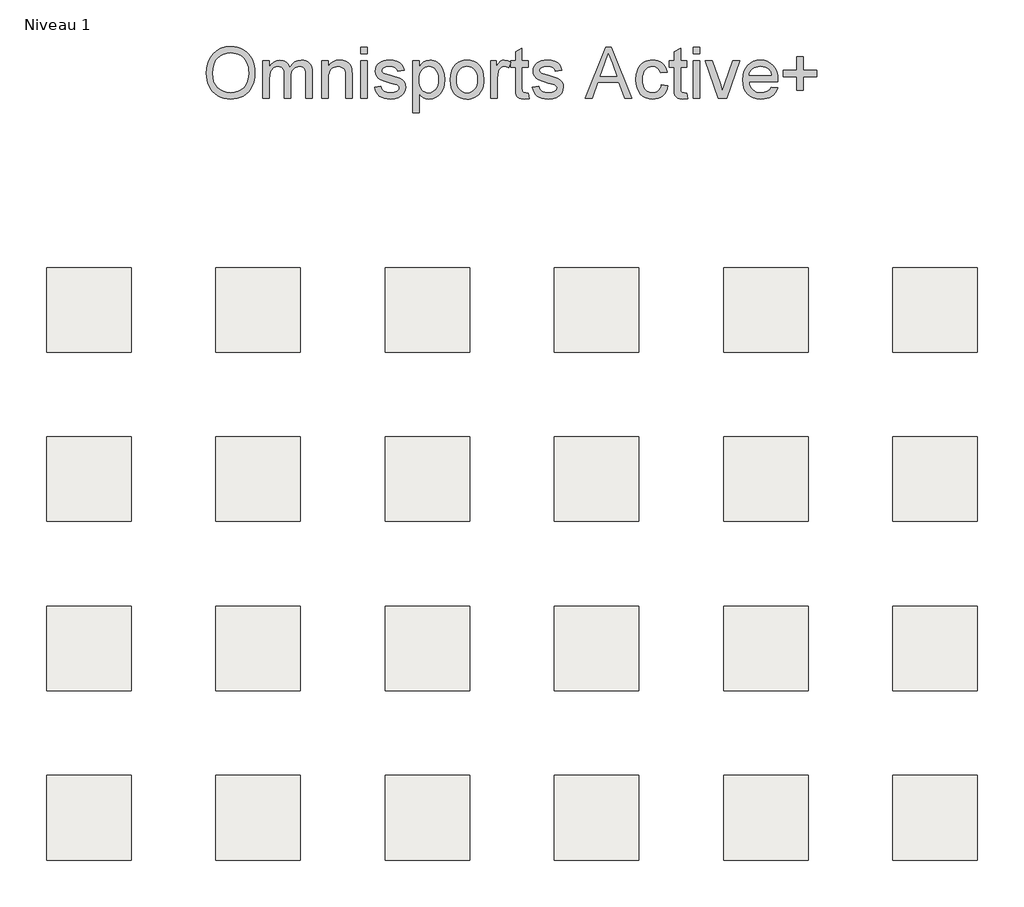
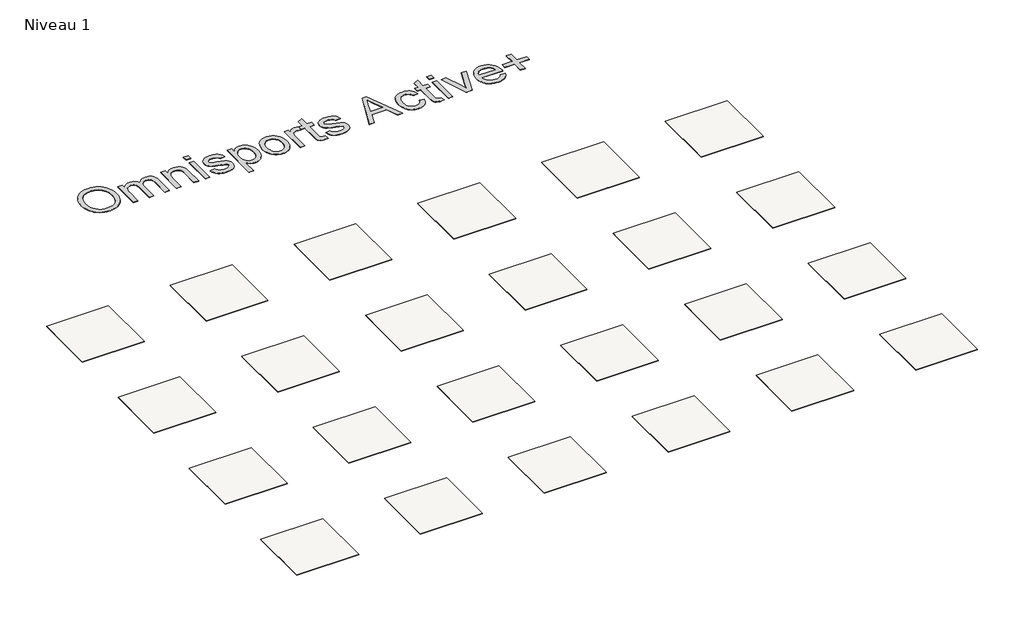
# One storey, incomplete: 24 coverings, 1 proxy.
"""IFC4 building model written with IfcOpenShell, lengths in millimetres."""

from ifc_helpers import new_model, si_unit, frame, origin, origin_with_axes, place, context, project, spatial, polyline, outline, extrude, element, save

model = new_model("IFC4")

# Units and contexts
model_context = context("Model", 3, world=origin())
ifc_project = project(units=[si_unit("LENGTHUNIT", "METRE", prefix="MILLI")], contexts=[model_context])

# Site, building, storey
site = spatial("IfcSite", under=ifc_project)
building = spatial("IfcBuilding", under=site)
storey = spatial("IfcBuildingStorey", under=building, Name="Niveau 1", Elevation=0.0)

# Proxy
placement = place(None, origin())
element("IfcBuildingElementProxy", 1, Name="600mm Arial", ObjectType="600mm Arial", at=placement, inside=storey, context=model_context, shape_type="SweptSolid", body=[
    extrude(outline(polyline([(74689.7853578, 4314.0042962), (74694.806947, 4384.7020186), (74709.8717147, 4447.287943), (74734.9796609, 4501.7620695), (74751.2998259, 4525.9572085), (74770.1307855, 4548.1243979), (74813.2189642, 4585.1425237), (74862.1380725, 4611.5840421), (74916.8881104, 4627.4489531), (74977.469078, 4632.7372568), (75018.0188709, 4630.2540533), (75056.5269187, 4622.8044429), (75092.9932215, 4610.3884256), (75127.4177792, 4593.0060013), (75158.8349016, 4571.181402), (75186.2788984, 4545.4388594), (75209.7497697, 4515.7783735), (75229.2475155, 4482.1999444), (75244.5698006, 4445.4669272), (75255.5142899, 4406.342677), (75262.0809836, 4364.8271938), (75264.2698814, 4320.9204777), (75261.9660204, 4276.4343474), (75255.0544374, 4234.3578442), (75243.5351325, 4194.6909681), (75227.4081055, 4157.433719), (75207.0550341, 4123.5701814), (75182.8575959, 4094.0844395), (75154.8157908, 4068.9764933), (75122.9296189, 4048.2463429), (75088.4544774, 4032.0227469), (75052.6457637, 4020.434464), (75015.5034778, 4013.4814943), (74977.0276196, 4011.1638378), (74935.7696538, 4013.7252162), (74896.7557682, 4021.4093513), (74859.9859628, 4034.2162433), (74825.4602376, 4052.145892), (74794.0799034, 4074.5039203), (74766.7462711, 4100.5959508), (74743.4593409, 4130.4219836), (74724.2191125, 4163.9820186), (74709.1543448, 4199.928688), (74698.3937964, 4236.9146241), (74691.9374674, 4274.9398268), (74689.7853578, 4314.0042962)]), holes=[polyline([(74765.1275904, 4313.2685322), (74768.8937823, 4263.3193543), (74780.1923581, 4218.9803768), (74799.0233177, 4180.2515998), (74825.3866612, 4147.1330232), (74857.4337815, 4120.6087313), (74893.3160716, 4101.6628086), (74933.0335315, 4090.2952549), (74976.5861612, 4086.5060704), (75020.8837519, 4090.3320431), (75061.0702614, 4101.8099614), (75097.1456895, 4120.9398251), (75129.1100364, 4147.7216344), (75155.2802418, 4181.5391868), (75173.9732457, 4221.77628), (75185.189048, 4268.432914), (75188.9276488, 4321.5090889), (75187.3273621, 4355.9888289), (75182.5265021, 4388.2060946), (75174.5250687, 4418.1608861), (75163.3230619, 4445.8532033), (75149.044642, 4470.9197627), (75131.8139691, 4492.9972809), (75111.6310431, 4512.085758), (75088.4958641, 4528.1851938), (75063.125802, 4540.9644946), (75036.2382267, 4550.0925666), (75007.8331382, 4555.5694098), (74977.9105364, 4557.3950242), (74935.8708214, 4553.8771526), (74896.8661328, 4543.3235379), (74860.8964708, 4525.73418), (74827.9618351, 4501.1090789), (74800.4718531, 4468.2618153), (74780.8361516, 4426.0059696), (74769.0547307, 4374.3415419), (74765.1275904, 4313.2685322)])]), origin_with_axes(), (0.0, 0.0, 1.0), 5.0),
    extrude(outline(polyline([(75358.4476722, 4020.5816168), (75358.4476722, 4463.2172334), (75433.7899048, 4463.2172334), (75433.7899048, 4390.3765984), (75456.4514357, 4423.8354659), (75485.5876897, 4450.047058), (75520.2053855, 4466.9880239), (75559.3112416, 4472.6350125), (75601.2130008, 4466.8776593), (75619.0460805, 4459.6809678), (75634.800627, 4449.6055996), (75659.890179, 4421.9592677), (75676.297716, 4385.0790977), (75703.760107, 4423.3848104), (75735.0852588, 4450.7460338), (75770.2731717, 4467.1627678), (75809.3238455, 4472.6350125), (75839.4855706, 4470.3587427), (75865.9592786, 4463.5299331), (75888.7449697, 4452.1485839), (75907.8426438, 4436.214695), (75922.9396012, 4415.5443254), (75933.7231421, 4389.9535341), (75940.1932667, 4359.4423211), (75942.3499749, 4324.0106865), (75942.3499749, 4020.5816168), (75867.0077423, 4020.5816168), (75867.0077423, 4291.6370709), (75865.2603028, 4329.2162167), (75860.0179844, 4354.5448921), (75850.1955351, 4371.8905281), (75834.7077031, 4385.5205561), (75814.7868931, 4394.3497239), (75791.6655097, 4397.2927799), (75770.3145584, 4395.4073847), (75750.8490023, 4389.751199), (75733.2688415, 4380.3242229), (75717.5740759, 4367.1264563), (75704.6660164, 4349.7716232), (75695.4459739, 4327.8734474), (75689.9139484, 4301.431929), (75688.0699399, 4270.447068), (75688.0699399, 4020.5816168), (75612.7277073, 4020.5816168), (75612.7277073, 4300.0247804), (75608.3683056, 4342.6255154), (75602.9190536, 4359.3457521), (75595.2901007, 4373.0125682), (75585.1779443, 4383.6351608), (75572.2790819, 4391.222727), (75556.5935133, 4395.7752667), (75538.1212386, 4397.2927799), (75509.0953492, 4393.246078), (75482.3503282, 4381.1059721), (75460.2774085, 4361.166768), (75445.267823, 4333.7227711), (75436.6593844, 4295.6469846), (75433.7899048, 4243.8124115), (75433.7899048, 4020.5816168), (75358.4476722, 4020.5816168)])), origin_with_axes(), (0.0, 0.0, 1.0), 5.0),
    extrude(outline(polyline([(76055.3633239, 4020.5816168), (76055.3633239, 4463.2172334), (76130.7055565, 4463.2172334), (76130.7055565, 4401.4130582), (76156.8803604, 4432.5726632), (76188.3158769, 4454.8295239), (76225.0121059, 4468.1836404), (76266.9690475, 4472.6350125), (76304.1067349, 4469.0481631), (76338.1174253, 4458.2876147), (76366.4811272, 4441.6961367), (76386.6778487, 4420.6164984), (76400.381453, 4395.103882), (76409.2658032, 4365.2134699), (76413.2389288, 4292.3728349), (76413.2389288, 4020.5816168), (76337.8966961, 4020.5816168), (76337.8966961, 4282.2192918), (76335.7261924, 4321.1779951), (76329.2146811, 4348.8795093), (76317.2033339, 4368.726743), (76298.5333227, 4384.1226045), (76274.6025989, 4394.000236), (76246.8091141, 4397.2927799), (76223.9314526, 4395.4441729), (76202.6816688, 4389.8983518), (76183.0597629, 4380.6553167), (76165.0657348, 4367.7150675), (76150.0331568, 4349.6060763), (76139.2956011, 4324.8568151), (76132.8530676, 4293.4672838), (76130.7055565, 4255.4374826), (76130.7055565, 4020.5816168), (76055.3633239, 4020.5816168)])), origin_with_axes(), (0.0, 0.0, 1.0), 5.0),
    extrude(outline(polyline([(76516.8344986, 4020.5816168), (76516.8344986, 4463.2172334), (76592.1767312, 4463.2172334), (76592.1767312, 4020.5816168), (76516.8344986, 4020.5816168)])), origin_with_axes(), (0.0, 0.0, 1.0), 5.0),
    extrude(outline(polyline([(76516.8344986, 4547.9772451), (76516.8344986, 4623.3194777), (76592.1767312, 4623.3194777), (76592.1767312, 4547.9772451), (76516.8344986, 4547.9772451)])), origin_with_axes(), (0.0, 0.0, 1.0), 5.0),
    extrude(outline(polyline([(76676.9367429, 4152.4305239), (76752.2789755, 4161.848303), (76756.8315152, 4144.6682138), (76764.161564, 4129.6218402), (76774.2691218, 4116.7091822), (76787.1541887, 4105.9302397), (76802.8535528, 4097.4321656), (76821.4040024, 4091.3621127), (76867.058158, 4086.5060704), (76912.1604906, 4090.9574425), (76929.6900677, 4096.5216577), (76943.8719186, 4104.3115589), (76962.6339004, 4123.6621519), (76967.3243958, 4134.4962766), (76968.8878943, 4146.1029536), (76967.3151987, 4156.2748908), (76962.5971122, 4165.3063937), (76943.7247658, 4179.9480972), (76915.5082168, 4189.513029), (76866.1752412, 4201.4324057), (76797.4180963, 4221.3164275), (76752.7204339, 4238.2941816), (76724.0072442, 4256.81704), (76703.2035174, 4281.336375), (76690.5667708, 4310.288688), (76686.354522, 4342.1104806), (76689.7390363, 4371.3019169), (76699.8925794, 4398.2492731), (76715.8954462, 4421.8856913), (76736.8279317, 4441.1443137), (76757.6316585, 4453.2660255), (76784.7261675, 4463.4379626), (76816.0513194, 4470.33575), (76849.546975, 4472.6350125), (76898.585645, 4468.9377985), (76941.2231682, 4457.8461563), (76975.5097702, 4440.4453379), (76999.4956763, 4417.8205952), (77015.3881785, 4388.2980651), (77025.3945687, 4350.2038845), (76950.0523361, 4340.7861054), (76940.5425865, 4364.4961), (76921.7254225, 4382.3567709), (76893.416903, 4393.5587777), (76855.433087, 4397.2927799), (76812.1701643, 4393.7243245), (76783.3282159, 4383.0189585), (76767.1046199, 4367.5679147), (76761.6967546, 4349.7624261), (76763.9408348, 4338.1741433), (76770.6730753, 4327.8366592), (76782.1877817, 4318.6028211), (76798.7792597, 4311.208393), (76863.6736437, 4295.168738), (76974.2589714, 4259.7049137), (77003.4688018, 4242.7455537), (77025.6152979, 4219.5321998), (77039.5764196, 4189.9912756), (77044.2301269, 4154.0492047), (77038.7670793, 4116.8931232), (77022.3779364, 4081.9443336), (76995.6880976, 4051.9435569), (76959.3229624, 4029.6315139), (76915.3978522, 4015.7807568), (76866.0280884, 4011.1638378), (76825.4782955, 4013.3895238), (76790.0604564, 4020.066582), (76759.7745712, 4031.1950124), (76734.6206397, 4046.7748149), (76714.0744303, 4066.7324131), (76697.611711, 4090.9942307), (76685.2324819, 4119.5602676), (76676.9367429, 4152.4305239)])), origin_with_axes(), (0.0, 0.0, 1.0), 5.0),
    extrude(outline(polyline([(77128.9901386, 3851.0615935), (77128.9901386, 4463.2172334), (77204.3323712, 4463.2172334), (77204.3323712, 4389.3465288), (77228.9068885, 4425.7852404), (77256.4244617, 4451.8128916), (77288.5037717, 4467.4294823), (77326.7634992, 4472.6350125), (77353.0394707, 4470.8139966), (77377.7151555, 4465.350949), (77400.7905537, 4456.2458696), (77422.2656651, 4443.4987585), (77441.6714404, 4427.4407094), (77458.5388299, 4408.4028162), (77472.8678336, 4386.3850787), (77484.6584515, 4361.3874972), (77500.4405891, 4305.8741041), (77505.7013016, 4245.2839395), (77499.7600074, 4180.849408), (77492.3333896, 4151.1843237), (77481.9361247, 4123.2206935), (77468.710767, 4097.689683), (77452.7998707, 4075.3224577), (77434.2034359, 4056.1190176), (77412.9214625, 4040.0793626), (77389.9978156, 4027.4288205), (77366.4763606, 4018.392719), (77342.3570973, 4012.9710581), (77317.6400257, 4011.1638378), (77283.0039359, 4016.001486), (77252.0834542, 4030.5144307), (77225.6143446, 4052.4218035), (77204.3323712, 4079.4427361), (77204.3323712, 3851.0615935), (77128.9901386, 3851.0615935)]), holes=[polyline([(77204.3323712, 4238.367758), (77206.3695177, 4202.0578051), (77212.4809574, 4170.8246237), (77222.6666901, 4144.6682138), (77236.926716, 4123.5885755), (77254.0930096, 4107.3649795), (77272.9975456, 4095.7766967), (77293.640324, 4088.8237269), (77316.0213449, 4086.5060704), (77338.7242625, 4088.9065004), (77359.74412, 4096.1077905), (77379.0809174, 4108.1099405), (77396.7346547, 4124.9129507), (77411.4453359, 4146.7559441), (77421.9529654, 4173.8780442), (77428.2575431, 4206.279251), (77430.359069, 4243.9595643), (77428.3081269, 4279.9568175), (77422.1553005, 4311.1348166), (77411.9005899, 4337.4935616), (77397.5439951, 4359.0330524), (77380.3363147, 4375.7716832), (77361.5283477, 4387.727848), (77341.120094, 4394.9015469), (77319.1115537, 4397.2927799), (77297.1719912, 4394.7497956), (77276.5292127, 4387.1208427), (77257.1832183, 4374.4059213), (77239.1340079, 4356.6050312), (77223.9082919, 4333.9572959), (77213.0327804, 4306.7018386), (77206.5074735, 4274.8386593), (77204.3323712, 4238.367758)])]), origin_with_axes(), (0.0, 0.0, 1.0), 5.0),
    extrude(outline(polyline([(77571.6257552, 4241.8994251), (77575.7000483, 4299.224637), (77587.9229276, 4348.6219919), (77608.294393, 4390.0914898), (77636.8144447, 4423.6331308), (77665.5276344, 4445.071454), (77697.2206683, 4460.3845421), (77731.8935464, 4469.5723949), (77769.5462686, 4472.6350125), (77811.1123355, 4468.9056088), (77848.6960798, 4457.7173976), (77882.2975016, 4439.070379), (77911.9166007, 4412.9645529), (77936.0910463, 4380.2828362), (77953.3585075, 4341.9081455), (77963.7189842, 4297.840481), (77967.1724764, 4248.0798427), (77965.6457661, 4207.7507789), (77961.0656353, 4171.9650579), (77953.4320839, 4140.7226794), (77942.7451119, 4114.0236436), (77929.1380766, 4090.962041), (77912.7443352, 4070.6319623), (77893.5638877, 4053.0334073), (77871.596734, 4038.1663762), (77847.6981999, 4026.3527656), (77822.723611, 4017.9144724), (77796.6729672, 4012.8514964), (77769.5462686, 4011.1638378), (77727.3731964, 4014.8794459), (77689.4399641, 4026.0262704), (77655.7465719, 4044.6043111), (77626.2930197, 4070.6135682), (77602.3760914, 4103.6125832), (77585.2925713, 4143.1598976), (77575.0424592, 4189.2555116), (77571.6257552, 4241.8994251)]), holes=[polyline([(77646.9679878, 4242.0465779), (77649.1476886, 4205.5021002), (77655.6867911, 4173.8596501), (77666.5852952, 4147.1192276), (77681.8432009, 4125.2808327), (77700.4028476, 4108.3168742), (77721.2065744, 4096.1997609), (77744.2543814, 4088.929493), (77769.5462686, 4086.5060704), (77794.709397, 4088.9432886), (77817.6652335, 4096.2549432), (77838.4137781, 4108.4410343), (77856.9550306, 4125.5015619), (77872.2129364, 4147.5560875), (77883.1114405, 4174.7241728), (77889.650543, 4207.0058179), (77891.8302438, 4244.4010227), (77889.6367474, 4279.7866721), (77883.0562582, 4310.6013877), (77872.0887762, 4336.8451696), (77856.7343014, 4358.5180176), (77838.124071, 4375.4819761), (77817.389322, 4387.5990893), (77794.5300546, 4394.8693573), (77769.5462686, 4397.2927799), (77744.2543814, 4394.8785543), (77721.2065744, 4387.6358775), (77700.4028476, 4375.5647496), (77681.8432009, 4358.6651704), (77666.5852952, 4336.8911548), (77655.6867911, 4310.1967175), (77649.1476886, 4278.5818586), (77646.9679878, 4242.0465779)])]), origin_with_axes(), (0.0, 0.0, 1.0), 5.0),
    extrude(outline(polyline([(78051.9324881, 4020.5816168), (78051.9324881, 4463.2172334), (78117.8569416, 4463.2172334), (78117.8569416, 4397.7342383), (78142.2107297, 4435.6996602), (78164.6515314, 4458.0668855), (78187.1659095, 4468.9929808), (78211.7404268, 4472.6350125), (78249.2643903, 4466.822477), (78287.376965, 4449.3848704), (78262.2138365, 4381.8417361), (78235.7263329, 4393.430019), (78209.2388292, 4397.2927799), (78186.7428452, 4393.5771718), (78166.6380942, 4382.4303473), (78150.3961041, 4364.6984351), (78139.4884029, 4341.2275638), (78130.3281412, 4299.1418636), (78127.2747207, 4253.2301906), (78127.2747207, 4020.5816168), (78051.9324881, 4020.5816168)])), origin_with_axes(), (0.0, 0.0, 1.0), 5.0),
    extrude(outline(polyline([(78494.5681047, 4083.4158616), (78503.9858837, 4018.3743249), (78447.6263621, 4011.1638378), (78411.463562, 4014.2908347), (78384.4978117, 4023.6718256), (78365.4415244, 4038.129588), (78353.0071129, 4056.4868996), (78346.1645078, 4088.0143866), (78343.8836394, 4141.9826752), (78343.8836394, 4387.8750008), (78287.376965, 4387.8750008), (78287.376965, 4463.2172334), (78343.8836394, 4463.2172334), (78343.8836394, 4570.7859288), (78419.2258721, 4615.078921), (78419.2258721, 4463.2172334), (78494.5681047, 4463.2172334), (78494.5681047, 4387.8750008), (78419.2258721, 4387.8750008), (78419.2258721, 4144.1899672), (78423.1989976, 4105.3416285), (78436.0748674, 4091.5828419), (78446.9457804, 4087.7752633), (78461.7530307, 4086.5060704), (78494.5681047, 4083.4158616)])), origin_with_axes(), (0.0, 0.0, 1.0), 5.0),
    extrude(outline(polyline([(78541.6570001, 4152.4305239), (78616.9992327, 4161.848303), (78621.5517724, 4144.6682138), (78628.8818211, 4129.6218402), (78638.9893789, 4116.7091822), (78651.8744458, 4105.9302397), (78667.57381, 4097.4321656), (78686.1242596, 4091.3621127), (78731.7784152, 4086.5060704), (78776.8807478, 4090.9574425), (78794.4103248, 4096.5216577), (78808.5921758, 4104.3115589), (78827.3541575, 4123.6621519), (78832.0446529, 4134.4962766), (78833.6081514, 4146.1029536), (78832.0354559, 4156.2748908), (78827.3173693, 4165.3063937), (78808.445023, 4179.9480972), (78780.2284739, 4189.513029), (78730.8954984, 4201.4324057), (78662.1383535, 4221.3164275), (78617.4406911, 4238.2941816), (78588.7275013, 4256.81704), (78567.9237745, 4281.336375), (78555.287028, 4310.288688), (78551.0747791, 4342.1104806), (78554.4592935, 4371.3019169), (78564.6128366, 4398.2492731), (78580.6157033, 4421.8856913), (78601.5481889, 4441.1443137), (78622.3519157, 4453.2660255), (78649.4464246, 4463.4379626), (78680.7715765, 4470.33575), (78714.2672322, 4472.6350125), (78763.3059021, 4468.9377985), (78805.9434254, 4457.8461563), (78840.2300273, 4440.4453379), (78864.2159334, 4417.8205952), (78880.1084356, 4388.2980651), (78890.1148259, 4350.2038845), (78814.7725933, 4340.7861054), (78805.2628437, 4364.4961), (78786.4456796, 4382.3567709), (78758.1371601, 4393.5587777), (78720.1533441, 4397.2927799), (78676.8904215, 4393.7243245), (78648.0484731, 4383.0189585), (78631.8248771, 4367.5679147), (78626.4170117, 4349.7624261), (78628.6610919, 4338.1741433), (78635.3933324, 4327.8366592), (78646.9080389, 4318.6028211), (78663.4995169, 4311.208393), (78728.3939008, 4295.168738), (78838.9792286, 4259.7049137), (78868.189059, 4242.7455537), (78890.3355551, 4219.5321998), (78904.2966768, 4189.9912756), (78908.950384, 4154.0492047), (78903.4873364, 4116.8931232), (78887.0981935, 4081.9443336), (78860.4083548, 4051.9435569), (78824.0432196, 4029.6315139), (78780.1181093, 4015.7807568), (78730.7483456, 4011.1638378), (78690.1985527, 4013.3895238), (78654.7807136, 4020.066582), (78624.4948283, 4031.1950124), (78599.3408969, 4046.7748149), (78578.7946875, 4066.7324131), (78562.3319682, 4090.9942307), (78549.952739, 4119.5602676), (78541.6570001, 4152.4305239)])), origin_with_axes(), (0.0, 0.0, 1.0), 5.0),
    extrude(outline(polyline([(79168.380767, 4020.5816168), (79408.9755919, 4623.3194777), (79473.1342118, 4623.3194777), (79713.7290367, 4020.5816168), (79634.1193729, 4020.5816168), (79565.1047106, 4208.9371984), (79316.8579403, 4208.9371984), (79247.9904308, 4020.5816168), (79168.380767, 4020.5816168)]), holes=[polyline([(79344.5226663, 4284.279431), (79537.5871374, 4284.279431), (79483.2877549, 4432.4622986), (79441.0549019, 4547.9772451), (79403.5309384, 4445.4117449), (79344.5226663, 4284.279431)])]), origin_with_axes(), (0.0, 0.0, 1.0), 5.0),
    extrude(outline(polyline([(80067.3372105, 4180.6838611), (80142.6794431, 4171.2660821), (80134.4848716, 4135.7148858), (80121.6733811, 4104.2563766), (80104.2449716, 4076.8905547), (80082.1996431, 4053.61742), (80056.4662975, 4035.0439778), (80027.973837, 4021.7772333), (79996.7222615, 4013.8171867), (79962.711571, 4011.1638378), (79920.4557254, 4014.8656503), (79882.5684784, 4025.9710881), (79849.0498301, 4044.480151), (79819.8997805, 4070.392839), (79796.304749, 4103.2217085), (79779.4511551, 4142.4793159), (79769.3389988, 4188.1656612), (79765.96828, 4240.2807444), (79771.7256332, 4307.327238), (79778.9223248, 4337.4981601), (79788.9976929, 4365.4341991), (79802.0207155, 4390.574335), (79818.0603705, 4412.3575476), (79837.1166579, 4430.783837), (79859.1895776, 4445.8532033), (79883.2812497, 4457.5702448), (79908.3937944, 4465.9395602), (79934.5272117, 4470.9611494), (79961.6815014, 4472.6350125), (79995.1081792, 4470.33575), (80025.3434807, 4463.4379626), (80052.3874059, 4451.9416503), (80076.2399547, 4435.846813), (80096.4964571, 4415.5213328), (80112.7522428, 4391.3330916), (80125.0073117, 4363.2820894), (80133.261664, 4331.3683264), (80057.9194314, 4321.9505473), (80044.2526153, 4354.8208036), (80022.9706418, 4378.3836454), (79995.2507335, 4392.5654963), (79962.2701126, 4397.2927799), (79936.6701243, 4394.9659263), (79913.5809306, 4387.9853654), (79893.0025315, 4376.3510973), (79874.934927, 4360.063122), (79860.2242457, 4338.7443604), (79849.7166162, 4312.0177334), (79843.4120385, 4279.8832411), (79841.3105126, 4242.3408835), (79843.3660533, 4204.2329074), (79849.5326752, 4171.7259346), (79859.8103784, 4144.8199651), (79874.199163, 4123.5149991), (79891.9080825, 4107.3235928), (79912.1461908, 4095.7583026), (79934.9134878, 4088.8191284), (79960.2099735, 4086.5060704), (79999.223859, 4092.2818177), (80016.095847, 4099.5015019), (80031.2111985, 4109.6090597), (80044.1468492, 4122.7148558), (80054.4797347, 4138.9292547), (80062.2098551, 4158.2522565), (80067.3372105, 4180.6838611)])), origin_with_axes(), (0.0, 0.0, 1.0), 5.0),
    extrude(outline(polyline([(80368.7061409, 4083.4158616), (80378.12392, 4018.3743249), (80321.7643983, 4011.1638378), (80285.6015982, 4014.2908347), (80258.6358479, 4023.6718256), (80239.5795606, 4038.129588), (80227.1451492, 4056.4868996), (80220.302544, 4088.0143866), (80218.0216757, 4141.9826752), (80218.0216757, 4387.8750008), (80161.5150012, 4387.8750008), (80161.5150012, 4463.2172334), (80218.0216757, 4463.2172334), (80218.0216757, 4570.7859288), (80293.3639083, 4615.078921), (80293.3639083, 4463.2172334), (80368.7061409, 4463.2172334), (80368.7061409, 4387.8750008), (80293.3639083, 4387.8750008), (80293.3639083, 4144.1899672), (80297.3370338, 4105.3416285), (80310.2129037, 4091.5828419), (80321.0838166, 4087.7752633), (80335.8910669, 4086.5060704), (80368.7061409, 4083.4158616)])), origin_with_axes(), (0.0, 0.0, 1.0), 5.0),
    extrude(outline(polyline([(80444.0483735, 4547.9772451), (80444.0483735, 4623.3194777), (80519.3906061, 4623.3194777), (80519.3906061, 4547.9772451), (80444.0483735, 4547.9772451)])), origin_with_axes(), (0.0, 0.0, 1.0), 5.0),
    extrude(outline(polyline([(80444.0483735, 4020.5816168), (80444.0483735, 4463.2172334), (80519.3906061, 4463.2172334), (80519.3906061, 4020.5816168), (80444.0483735, 4020.5816168)])), origin_with_axes(), (0.0, 0.0, 1.0), 5.0),
    extrude(outline(polyline([(80741.00272, 4020.5816168), (80585.3150597, 4463.2172334), (80665.0718762, 4463.2172334), (80759.3968198, 4198.0478913), (80787.7973098, 4108.8732957), (80815.6091886, 4193.0446962), (80910.5227434, 4463.2172334), (80990.27956, 4463.2172334), (80836.504886, 4020.5816168), (80741.00272, 4020.5816168)])), origin_with_axes(), (0.0, 0.0, 1.0), 5.0),
    extrude(outline(polyline([(81366.1078062, 4152.4305239), (81439.9785109, 4143.0127448), (81428.6523439, 4113.4258354), (81413.3622485, 4087.352199), (81394.1082246, 4064.7918356), (81370.8902722, 4045.7447453), (81343.9475145, 4030.6155983), (81313.519075, 4019.8090647), (81279.6049536, 4013.3251445), (81242.2051502, 4011.1638378), (81195.4565457, 4014.8932415), (81153.8031068, 4026.0814527), (81117.2448335, 4044.7284713), (81085.7817259, 4070.8342974), (81060.4806417, 4103.672364), (81042.4084387, 4142.5161041), (81031.5651169, 4187.3655179), (81027.9506763, 4238.2206052), (81031.6019051, 4290.8001393), (81042.5555915, 4337.1440737), (81060.8117355, 4377.2524082), (81086.3703371, 4411.1251429), (81117.7506713, 4438.0357109), (81153.472013, 4457.2575451), (81193.5343623, 4468.7906457), (81237.9377191, 4472.6350125), (81280.9109347, 4468.7998427), (81319.7730689, 4457.2943333), (81354.5241219, 4438.1184843), (81385.1640936, 4411.2722957), (81410.1754707, 4377.4731374), (81428.0407401, 4337.4383793), (81438.7599017, 4291.1680213), (81442.3329556, 4238.6620636), (81441.8914972, 4218.3549774), (81103.2929089, 4218.3549774), (81107.656909, 4188.2898214), (81116.3343256, 4161.9586676), (81129.3251586, 4139.361516), (81146.6294079, 4120.4983667), (81167.2905805, 4105.6267371), (81190.352183, 4095.0041445), (81215.8142156, 4088.6305889), (81243.6766782, 4086.5060704), (81283.7758157, 4090.4424077), (81317.5473829, 4102.2514198), (81344.9913797, 4122.6688705), (81366.1078062, 4152.4305239)]), holes=[polyline([(81103.2929089, 4293.6972101), (81366.990723, 4293.6972101), (81356.8003917, 4333.5020419), (81348.0356032, 4349.1554208), (81336.8243994, 4361.9761084), (81316.27819, 4377.4271522), (81292.8992892, 4388.463612), (81266.687697, 4395.0854879), (81237.6434135, 4397.2927799), (81211.1513113, 4395.5315449), (81186.8573041, 4390.2478397), (81164.7613917, 4381.4416644), (81144.8635743, 4369.1130191), (81128.1663303, 4353.8321207), (81115.672138, 4336.1691864), (81107.3809975, 4316.1242162), (81103.2929089, 4293.6972101)])]), origin_with_axes(), (0.0, 0.0, 1.0), 5.0),
    extrude(outline(polyline([(81668.3596535, 4114.7594076), (81668.3596535, 4274.8616519), (81508.2574092, 4274.8616519), (81508.2574092, 4350.2038845), (81668.3596535, 4350.2038845), (81668.3596535, 4510.3061288), (81743.7018861, 4510.3061288), (81743.7018861, 4350.2038845), (81903.8041304, 4350.2038845), (81903.8041304, 4274.8616519), (81743.7018861, 4274.8616519), (81743.7018861, 4114.7594076), (81668.3596535, 4114.7594076)])), origin_with_axes(), (0.0, 0.0, 1.0), 5.0),
])

# Coverings
element("IfcCovering", 2, ObjectType="TARKETT - Omnisports Active+ - Beech", at=placement, inside=storey, context=model_context, shape_type="SweptSolid", body=[
    extrude(outline(polyline([(73801.5036336, 2020.5816168), (73801.5036336, 1020.5816168), (72801.5036336, 1020.5816168), (72801.5036336, 2020.5816168), (73801.5036336, 2020.5816168)])), frame((0.0, 0.0, -8.1), z_axis=(0.0, 0.0, 1.0), x_axis=(1.0, 0.0, 0.0)), (0.0, 0.0, 1.0), 8.1),
])
element("IfcCovering", 3, ObjectType="TARKETT - Omnisports Active+ - Classic Oak", at=placement, inside=storey, context=model_context, shape_type="SweptSolid", body=[
    extrude(outline(polyline([(75801.5036336, 2020.5816168), (75801.5036336, 1020.5816168), (74801.5036336, 1020.5816168), (74801.5036336, 2020.5816168), (75801.5036336, 2020.5816168)])), frame((0.0, 0.0, -8.1), z_axis=(0.0, 0.0, 1.0), x_axis=(1.0, 0.0, 0.0)), (0.0, 0.0, 1.0), 8.1),
])
element("IfcCovering", 4, ObjectType="TARKETT - Omnisports Active+ - Dark Beech", at=placement, inside=storey, context=model_context, shape_type="SweptSolid", body=[
    extrude(outline(polyline([(77801.5036336, 2020.5816168), (77801.5036336, 1020.5816168), (76801.5036336, 1020.5816168), (76801.5036336, 2020.5816168), (77801.5036336, 2020.5816168)])), frame((0.0, 0.0, -8.1), z_axis=(0.0, 0.0, 1.0), x_axis=(1.0, 0.0, 0.0)), (0.0, 0.0, 1.0), 8.1),
])
element("IfcCovering", 5, ObjectType="TARKETT - Omnisports Active+ - Golden Maple", at=placement, inside=storey, context=model_context, shape_type="SweptSolid", body=[
    extrude(outline(polyline([(79801.5036336, 2020.5816168), (79801.5036336, 1020.5816168), (78801.5036336, 1020.5816168), (78801.5036336, 2020.5816168), (79801.5036336, 2020.5816168)])), frame((0.0, 0.0, -8.1), z_axis=(0.0, 0.0, 1.0), x_axis=(1.0, 0.0, 0.0)), (0.0, 0.0, 1.0), 8.1),
])
element("IfcCovering", 6, ObjectType="TARKETT - Omnisports Active+ - Maple Grey", at=placement, inside=storey, context=model_context, shape_type="SweptSolid", body=[
    extrude(outline(polyline([(81801.5036336, 2020.5816168), (81801.5036336, 1020.5816168), (80801.5036336, 1020.5816168), (80801.5036336, 2020.5816168), (81801.5036336, 2020.5816168)])), frame((0.0, 0.0, -8.1), z_axis=(0.0, 0.0, 1.0), x_axis=(1.0, 0.0, 0.0)), (0.0, 0.0, 1.0), 8.1),
])
element("IfcCovering", 7, ObjectType="TARKETT - Omnisports Active+ - Light Maple", at=placement, inside=storey, context=model_context, shape_type="SweptSolid", body=[
    extrude(outline(polyline([(83801.5036336, 2020.5816168), (83801.5036336, 1020.5816168), (82801.5036336, 1020.5816168), (82801.5036336, 2020.5816168), (83801.5036336, 2020.5816168)])), frame((0.0, 0.0, -8.1), z_axis=(0.0, 0.0, 1.0), x_axis=(1.0, 0.0, 0.0)), (0.0, 0.0, 1.0), 8.1),
])
element("IfcCovering", 8, ObjectType="TARKETT - Omnisports Active+ - Maple Red", at=placement, inside=storey, context=model_context, shape_type="SweptSolid", body=[
    extrude(outline(polyline([(73801.5036336, 20.5816168), (73801.5036336, -979.4183832), (72801.5036336, -979.4183832), (72801.5036336, 20.5816168), (73801.5036336, 20.5816168)])), frame((0.0, 0.0, -8.1), z_axis=(0.0, 0.0, 1.0), x_axis=(1.0, 0.0, 0.0)), (0.0, 0.0, 1.0), 8.1),
])
element("IfcCovering", 9, ObjectType="TARKETT - Omnisports Active+ - Maple Sky Blue", at=placement, inside=storey, context=model_context, shape_type="SweptSolid", body=[
    extrude(outline(polyline([(75801.5036336, 20.5816168), (75801.5036336, -979.4183832), (74801.5036336, -979.4183832), (74801.5036336, 20.5816168), (75801.5036336, 20.5816168)])), frame((0.0, 0.0, -8.1), z_axis=(0.0, 0.0, 1.0), x_axis=(1.0, 0.0, 0.0)), (0.0, 0.0, 1.0), 8.1),
])
element("IfcCovering", 10, ObjectType="TARKETT - Omnisports Active+ - Black", at=placement, inside=storey, context=model_context, shape_type="SweptSolid", body=[
    extrude(outline(polyline([(77801.5036336, 20.5816168), (77801.5036336, -979.4183832), (76801.5036336, -979.4183832), (76801.5036336, 20.5816168), (77801.5036336, 20.5816168)])), frame((0.0, 0.0, -8.1), z_axis=(0.0, 0.0, 1.0), x_axis=(1.0, 0.0, 0.0)), (0.0, 0.0, 1.0), 8.1),
])
element("IfcCovering", 11, ObjectType="TARKETT - Omnisports Active+ - Coral", at=placement, inside=storey, context=model_context, shape_type="SweptSolid", body=[
    extrude(outline(polyline([(79801.5036336, 20.5816168), (79801.5036336, -979.4183832), (78801.5036336, -979.4183832), (78801.5036336, 20.5816168), (79801.5036336, 20.5816168)])), frame((0.0, 0.0, -8.1), z_axis=(0.0, 0.0, 1.0), x_axis=(1.0, 0.0, 0.0)), (0.0, 0.0, 1.0), 8.1),
])
element("IfcCovering", 12, ObjectType="TARKETT - Omnisports Active+ - Grey", at=placement, inside=storey, context=model_context, shape_type="SweptSolid", body=[
    extrude(outline(polyline([(81801.5036336, 20.5816168), (81801.5036336, -979.4183832), (80801.5036336, -979.4183832), (80801.5036336, 20.5816168), (81801.5036336, 20.5816168)])), frame((0.0, 0.0, -8.1), z_axis=(0.0, 0.0, 1.0), x_axis=(1.0, 0.0, 0.0)), (0.0, 0.0, 1.0), 8.1),
])
element("IfcCovering", 13, ObjectType="TARKETT - Omnisports Active+ - Lagoon", at=placement, inside=storey, context=model_context, shape_type="SweptSolid", body=[
    extrude(outline(polyline([(83801.5036336, 20.5816168), (83801.5036336, -979.4183832), (82801.5036336, -979.4183832), (82801.5036336, 20.5816168), (83801.5036336, 20.5816168)])), frame((0.0, 0.0, -8.1), z_axis=(0.0, 0.0, 1.0), x_axis=(1.0, 0.0, 0.0)), (0.0, 0.0, 1.0), 8.1),
])
element("IfcCovering", 14, ObjectType="TARKETT - Omnisports Active+ - Light Green", at=placement, inside=storey, context=model_context, shape_type="SweptSolid", body=[
    extrude(outline(polyline([(73801.5036336, -1979.4183832), (73801.5036336, -2979.4183832), (72801.5036336, -2979.4183832), (72801.5036336, -1979.4183832), (73801.5036336, -1979.4183832)])), frame((0.0, 0.0, -8.1), z_axis=(0.0, 0.0, 1.0), x_axis=(1.0, 0.0, 0.0)), (0.0, 0.0, 1.0), 8.1),
])
element("IfcCovering", 15, ObjectType="TARKETT - Omnisports Active+ - Lime", at=placement, inside=storey, context=model_context, shape_type="SweptSolid", body=[
    extrude(outline(polyline([(75801.5036336, -1979.4183832), (75801.5036336, -2979.4183832), (74801.5036336, -2979.4183832), (74801.5036336, -1979.4183832), (75801.5036336, -1979.4183832)])), frame((0.0, 0.0, -8.1), z_axis=(0.0, 0.0, 1.0), x_axis=(1.0, 0.0, 0.0)), (0.0, 0.0, 1.0), 8.1),
])
element("IfcCovering", 16, ObjectType="TARKETT - Omnisports Active+ - Magenta", at=placement, inside=storey, context=model_context, shape_type="SweptSolid", body=[
    extrude(outline(polyline([(77801.5036336, -1979.4183832), (77801.5036336, -2979.4183832), (76801.5036336, -2979.4183832), (76801.5036336, -1979.4183832), (77801.5036336, -1979.4183832)])), frame((0.0, 0.0, -8.1), z_axis=(0.0, 0.0, 1.0), x_axis=(1.0, 0.0, 0.0)), (0.0, 0.0, 1.0), 8.1),
])
element("IfcCovering", 17, ObjectType="TARKETT - Omnisports Active+ - Mint Green", at=placement, inside=storey, context=model_context, shape_type="SweptSolid", body=[
    extrude(outline(polyline([(79801.5036336, -1979.4183832), (79801.5036336, -2979.4183832), (78801.5036336, -2979.4183832), (78801.5036336, -1979.4183832), (79801.5036336, -1979.4183832)])), frame((0.0, 0.0, -8.1), z_axis=(0.0, 0.0, 1.0), x_axis=(1.0, 0.0, 0.0)), (0.0, 0.0, 1.0), 8.1),
])
element("IfcCovering", 18, ObjectType="TARKETT - Omnisports Active+ - Night Blue", at=placement, inside=storey, context=model_context, shape_type="SweptSolid", body=[
    extrude(outline(polyline([(81801.5036336, -1979.4183832), (81801.5036336, -2979.4183832), (80801.5036336, -2979.4183832), (80801.5036336, -1979.4183832), (81801.5036336, -1979.4183832)])), frame((0.0, 0.0, -8.1), z_axis=(0.0, 0.0, 1.0), x_axis=(1.0, 0.0, 0.0)), (0.0, 0.0, 1.0), 8.1),
])
element("IfcCovering", 19, ObjectType="TARKETT - Omnisports Active+ - Orange", at=placement, inside=storey, context=model_context, shape_type="SweptSolid", body=[
    extrude(outline(polyline([(83801.5036336, -1979.4183832), (83801.5036336, -2979.4183832), (82801.5036336, -2979.4183832), (82801.5036336, -1979.4183832), (83801.5036336, -1979.4183832)])), frame((0.0, 0.0, -8.1), z_axis=(0.0, 0.0, 1.0), x_axis=(1.0, 0.0, 0.0)), (0.0, 0.0, 1.0), 8.1),
])
element("IfcCovering", 20, ObjectType="TARKETT - Omnisports Active+ - Purple", at=placement, inside=storey, context=model_context, shape_type="SweptSolid", body=[
    extrude(outline(polyline([(73801.5036336, -3979.4183832), (73801.5036336, -4979.4183832), (72801.5036336, -4979.4183832), (72801.5036336, -3979.4183832), (73801.5036336, -3979.4183832)])), frame((0.0, 0.0, -8.1), z_axis=(0.0, 0.0, 1.0), x_axis=(1.0, 0.0, 0.0)), (0.0, 0.0, 1.0), 8.1),
])
element("IfcCovering", 21, ObjectType="TARKETT - Omnisports Active+ - Red", at=placement, inside=storey, context=model_context, shape_type="SweptSolid", body=[
    extrude(outline(polyline([(75801.5036336, -3979.4183832), (75801.5036336, -4979.4183832), (74801.5036336, -4979.4183832), (74801.5036336, -3979.4183832), (75801.5036336, -3979.4183832)])), frame((0.0, 0.0, -8.1), z_axis=(0.0, 0.0, 1.0), x_axis=(1.0, 0.0, 0.0)), (0.0, 0.0, 1.0), 8.1),
])
element("IfcCovering", 22, ObjectType="TARKETT - Omnisports Active+ - Royal Blue", at=placement, inside=storey, context=model_context, shape_type="SweptSolid", body=[
    extrude(outline(polyline([(77801.5036336, -3979.4183832), (77801.5036336, -4979.4183832), (76801.5036336, -4979.4183832), (76801.5036336, -3979.4183832), (77801.5036336, -3979.4183832)])), frame((0.0, 0.0, -8.1), z_axis=(0.0, 0.0, 1.0), x_axis=(1.0, 0.0, 0.0)), (0.0, 0.0, 1.0), 8.1),
])
element("IfcCovering", 23, ObjectType="TARKETT - Omnisports Active+ - Sky Blue", at=placement, inside=storey, context=model_context, shape_type="SweptSolid", body=[
    extrude(outline(polyline([(79801.5036336, -3979.4183832), (79801.5036336, -4979.4183832), (78801.5036336, -4979.4183832), (78801.5036336, -3979.4183832), (79801.5036336, -3979.4183832)])), frame((0.0, 0.0, -8.1), z_axis=(0.0, 0.0, 1.0), x_axis=(1.0, 0.0, 0.0)), (0.0, 0.0, 1.0), 8.1),
])
element("IfcCovering", 24, ObjectType="TARKETT - Omnisports Active+ - Teal", at=placement, inside=storey, context=model_context, shape_type="SweptSolid", body=[
    extrude(outline(polyline([(81801.5036336, -3979.4183832), (81801.5036336, -4979.4183832), (80801.5036336, -4979.4183832), (80801.5036336, -3979.4183832), (81801.5036336, -3979.4183832)])), frame((0.0, 0.0, -8.1), z_axis=(0.0, 0.0, 1.0), x_axis=(1.0, 0.0, 0.0)), (0.0, 0.0, 1.0), 8.1),
])
element("IfcCovering", 25, ObjectType="TARKETT - Omnisports Active+ - Yellow", at=placement, inside=storey, context=model_context, shape_type="SweptSolid", body=[
    extrude(outline(polyline([(83801.5036336, -3979.4183832), (83801.5036336, -4979.4183832), (82801.5036336, -4979.4183832), (82801.5036336, -3979.4183832), (83801.5036336, -3979.4183832)])), frame((0.0, 0.0, -8.1), z_axis=(0.0, 0.0, 1.0), x_axis=(1.0, 0.0, 0.0)), (0.0, 0.0, 1.0), 8.1),
])

save(model, "model.ifc")
